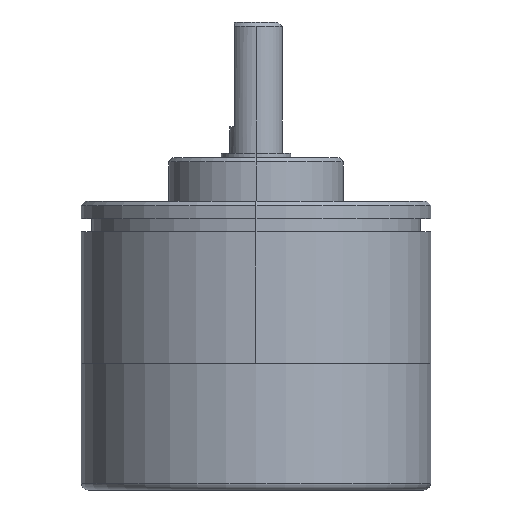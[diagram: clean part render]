
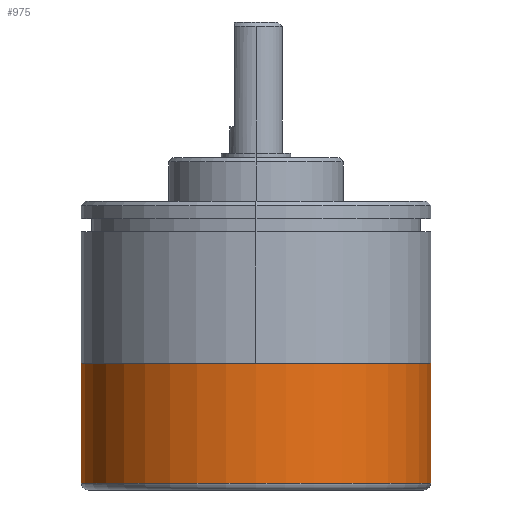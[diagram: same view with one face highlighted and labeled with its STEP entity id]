
A CAD part, left-side view. The second image highlights one B-rep face of the part: STEP entity #975.
In plain terms, the highlighted cylindrical face has radius 20 mm (diameter 40 mm), a partial arc.
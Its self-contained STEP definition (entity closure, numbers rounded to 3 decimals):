
#494=CYLINDRICAL_SURFACE('',#5699,20.);
#712=FACE_OUTER_BOUND('',#1469,.T.);
#975=ADVANCED_FACE('',(#712),#494,.T.);
#1469=EDGE_LOOP('',(#3119,#3120,#3121,#3122));
#1878=CIRCLE('',#5692,20.);
#1881=CIRCLE('',#5697,20.);
#3119=ORIENTED_EDGE('',*,*,#4706,.T.);
#3120=ORIENTED_EDGE('',*,*,#4701,.F.);
#3121=ORIENTED_EDGE('',*,*,#4705,.F.);
#3122=ORIENTED_EDGE('',*,*,#4710,.T.);
#3996=VERTEX_POINT('',#10059);
#3997=VERTEX_POINT('',#10060);
#3998=VERTEX_POINT('',#10074);
#3999=VERTEX_POINT('',#10077);
#4701=EDGE_CURVE('',#3996,#3997,#1878,.T.);
#4705=EDGE_CURVE('',#3998,#3996,#5016,.T.);
#4706=EDGE_CURVE('',#3999,#3997,#5017,.T.);
#4710=EDGE_CURVE('',#3998,#3999,#1881,.T.);
#5016=LINE('',#10075,#5181);
#5017=LINE('',#10076,#5182);
#5181=VECTOR('',#6878,1.);
#5182=VECTOR('',#6879,1.);
#5692=AXIS2_PLACEMENT_3D('',#10058,#6872,#6873);
#5697=AXIS2_PLACEMENT_3D('',#10105,#6886,#6887);
#5699=AXIS2_PLACEMENT_3D('',#10107,#6890,#6891);
#6872=DIRECTION('',(0.,0.,1.));
#6873=DIRECTION('',(0.974,0.228,0.));
#6878=DIRECTION('',(0.,0.,1.));
#6879=DIRECTION('',(0.,0.,1.));
#6886=DIRECTION('',(0.,0.,1.));
#6887=DIRECTION('',(0.974,0.228,0.));
#6890=DIRECTION('',(0.,0.,1.));
#6891=DIRECTION('',(-0.087,-0.996,0.));
#10058=CARTESIAN_POINT('',(20.,20.,-30.));
#10059=CARTESIAN_POINT('',(39.472,24.565,-30.));
#10060=CARTESIAN_POINT('',(38.383,12.123,-30.));
#10074=CARTESIAN_POINT('',(39.472,24.565,-43.7));
#10075=CARTESIAN_POINT('',(39.472,24.565,-43.7));
#10076=CARTESIAN_POINT('',(38.383,12.123,-43.7));
#10077=CARTESIAN_POINT('',(38.383,12.123,-43.7));
#10105=CARTESIAN_POINT('',(20.,20.,-43.7));
#10107=CARTESIAN_POINT('',(20.,20.,-44.5));
